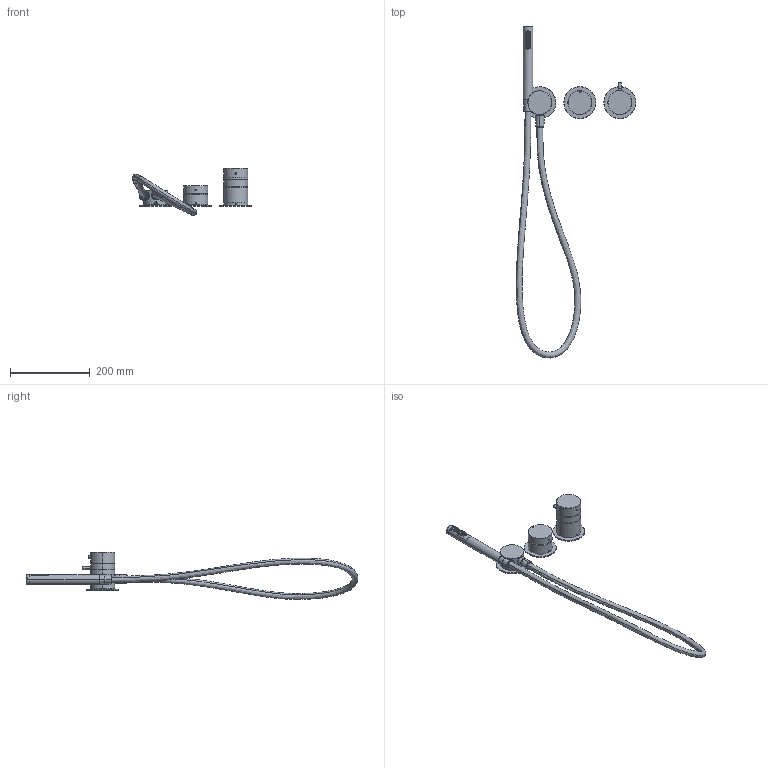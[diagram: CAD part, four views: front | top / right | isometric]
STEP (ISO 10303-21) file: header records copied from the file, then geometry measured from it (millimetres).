
FILE_DESCRIPTION((''),'2;1');
FILE_NAME('0000192122_SW0001','2023-09-27T14:51:50',('matteo.follador'),(''),'CREO PARAMETRIC BY PTC INC, 2022424','CREO PARAMETRIC BY PTC INC, 2022424','');
FILE_SCHEMA(('AUTOMOTIVE_DESIGN { 1 0 10303 214 1 1 1 1 }'));
Products named in the file (1): 0000192122_SW0001
Bounding box: 299.18 x 830.25 x 117.55 mm (x, y, z)
Volume: 780990.9 mm3; surface area: 181155.1 mm2
Topology: 3 solids, 3 shells, 652 faces, 1497 edges, 975 vertices
Faces by surface type: cylinder 343, bspline 113, plane 109, cone 83, torus 4
Entity records: 67785 total; most frequent: CARTESIAN_POINT 49732, ORIENTED_EDGE 2990, DIRECTION 2517, EDGE_CURVE 1495, AXIS2_PLACEMENT_3D 985, VERTEX_POINT 975, EDGE_LOOP 790, FACE_OUTER_BOUND 652
